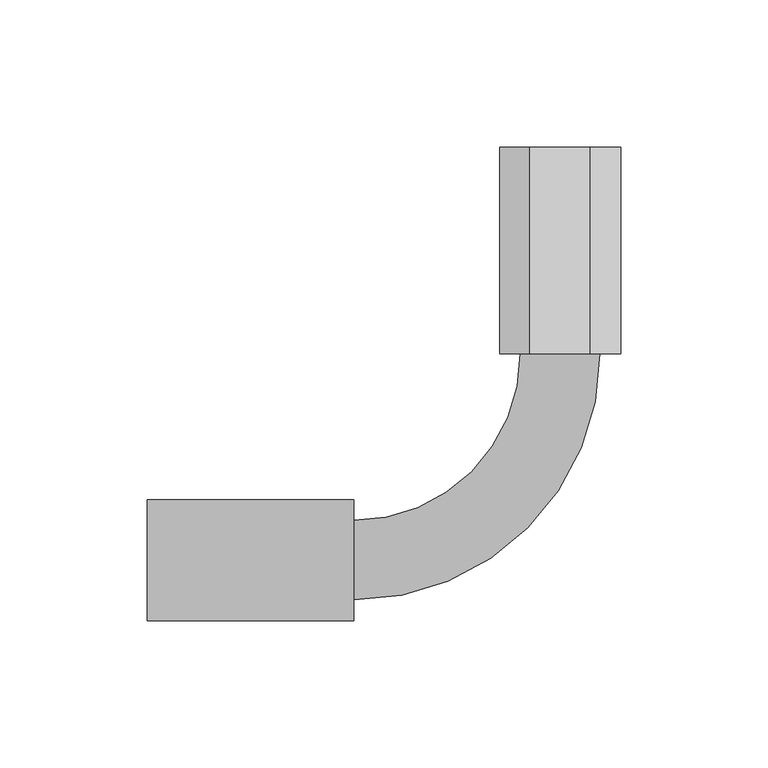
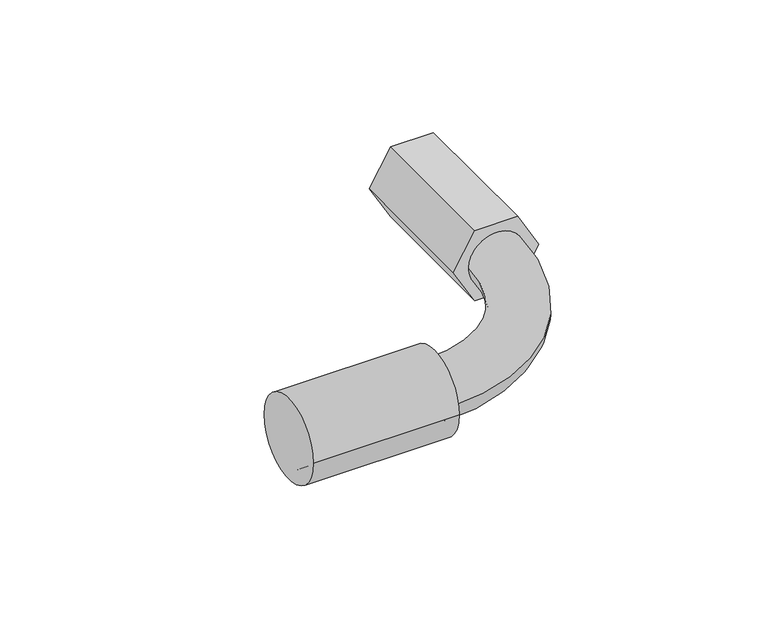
"""IFC4 building model written with IfcOpenShell, lengths in millimetres: cable carrier fitting geometry, Муфта_гибкая_труба-труба_IP44 : Муфта гибкая труба-труба D25мм."""

from ifc_helpers import new_model, si_unit, point, frame, origin, origin_2d, place, context, project, spatial, polyline, circle_curve, ellipse_curve, trimmed, segment, composite_curve, outline, extrude, source, transform, mapped, element, save
from ifc_brep_helpers import plane_surface, cylinder_surface, revolved_surface, advanced_brep


def cable_carrier_fitting_4913733f(model_context):
    return source(origin(), model_context, "Body", "SolidModel", [
        extrude(outline(composite_curve([segment(trimmed(circle_curve(origin_2d(), 20.5), [point((-20.5, 0.0))], [point((20.5, 0.0))], False, "CARTESIAN"), True, "CONTINUOUS"), segment(trimmed(circle_curve(origin_2d(), 20.5), [point((20.5, 0.0))], [point((-20.5, 0.0))], False, "CARTESIAN"), True, "CONTINUOUS")], self_intersect=False)), frame((-140.0, 0.0, 0.0), z_axis=(1.0, 0.0, 0.0), x_axis=(0.0, 1.0, 0.0)), (0.0, 0.0, 1.0), 70.0),
        extrude(outline(polyline([(-17.7535208, 10.25), (0.0, 20.5), (17.7535208, 10.25), (17.7535208, -10.25), (0.0, -20.5), (-17.7535208, -10.25), (-17.7535208, 10.25)])), frame((0.0, 70.0, 0.0), z_axis=(0.0, 1.0, 0.0), x_axis=(0.0, 0.0, 1.0)), (0.0, 0.0, 1.0), 70.0),
        advanced_brep(
        [(-140.0, -13.5, 0.0), (-140.0, 13.5, 0.0), (-70.0, -13.5, 0.0), (-70.0, 13.5, 0.0), (-13.5, 70.0, 0.0), (13.5, 70.0, 0.0), (13.5, 140.0, 0.0), (-13.5, 140.0, 0.0)],
        [
            (0, 1, circle_curve(frame((-140.0, 0.0, 0.0), z_axis=(-1.0, 0.0, 0.0), x_axis=(0.0, 1.0, 0.0)), 13.5)),
            (1, 0, circle_curve(frame((-140.0, 0.0, 0.0), z_axis=(-1.0, 0.0, 0.0), x_axis=(0.0, 1.0, 0.0)), 13.5)),
            (0, 2),
            (2, 3, circle_curve(frame((-70.0, 0.0, 0.0), z_axis=(-1.0, 0.0, 0.0), x_axis=(0.0, 1.0, 0.0)), 13.5)),
            (3, 1),
            (3, 2, circle_curve(frame((-70.0, 0.0, 0.0), z_axis=(-1.0, 0.0, 0.0), x_axis=(0.0, 1.0, 0.0)), 13.5)),
            (4, 3, circle_curve(frame((-70.0, 70.0, 0.0), z_axis=(0.0, 0.0, -1.0), x_axis=(0.0, -1.0, 0.0)), 56.5)),
            (2, 5, circle_curve(frame((-70.0, 70.0, 0.0), z_axis=(0.0, 0.0, 1.0), x_axis=(0.0, -1.0, 0.0)), 83.5)),
            (5, 4, circle_curve(frame((0.0, 70.0, 0.0), z_axis=(0.0, -1.0, 0.0), x_axis=(-1.0, 0.0, 0.0)), 13.5)),
            (4, 5, circle_curve(frame((0.0, 70.0, 0.0), z_axis=(0.0, -1.0, 0.0), x_axis=(-1.0, 0.0, 0.0)), 13.5)),
            (6, 7, circle_curve(frame((0.0, 140.0, 0.0), z_axis=(0.0, 1.0, 0.0), x_axis=(-1.0, 0.0, 0.0)), 13.5)),
            (7, 6, circle_curve(frame((0.0, 140.0, 0.0), z_axis=(0.0, 1.0, 0.0), x_axis=(-1.0, 0.0, 0.0)), 13.5)),
            (5, 6),
            (7, 4),
        ],
        [
            plane_surface(frame((-140.0, 0.0, 0.0), z_axis=(-1.0, 0.0, 0.0), x_axis=(0.0, 0.0, 1.0))),
            cylinder_surface(frame((-140.0, 0.0, 0.0), z_axis=(-1.0, 0.0, 0.0), x_axis=(0.0, 1.0, 0.0)), 13.5),
            revolved_surface(trimmed(ellipse_curve(frame((-70.0, 0.0, 0.0), z_axis=(-1.0, 0.0, 0.0), x_axis=(0.0, 1.0, 0.0)), 13.5, 13.5), [point((-70.0, -13.5, 0.0))], [point((-70.0, 13.5, 0.0))], True, "CARTESIAN"), (-70.0, 70.0, 0.0), (0.0, 0.0, 1.0)),
            revolved_surface(trimmed(ellipse_curve(frame((-70.0, 0.0, 0.0), z_axis=(-1.0, 0.0, 0.0), x_axis=(0.0, 1.0, 0.0)), 13.5, 13.5), [point((-70.0, 13.5, 0.0))], [point((-70.0, -13.5, 0.0))], True, "CARTESIAN"), (-70.0, 70.0, 0.0), (0.0, 0.0, 1.0)),
            plane_surface(frame((0.0, 140.0, 0.0), z_axis=(0.0, 1.0, 0.0), x_axis=(0.0, 0.0, 1.0))),
            cylinder_surface(frame((0.0, 70.0, 0.0), z_axis=(0.0, -1.0, 0.0), x_axis=(-1.0, 0.0, 0.0)), 13.5),
        ],
        [
            (0, [[1, 2]]),
            (1, [[-1, 3, 4, 5]]),
            (1, [[-2, -5, 6, -3]]),
            (2, [[7, -4, 8, 9]]),
            (3, [[-8, -6, -7, 10]]),
            (4, [[11, 12]]),
            (5, [[-9, 13, -12, 14]]),
            (5, [[-10, -14, -11, -13]]),
        ],
    ),
    ])


if __name__ == "__main__":
    model = new_model("IFC4")
    model_context = context("Model", 3, world=origin())
    ifc_project = project(units=[si_unit("LENGTHUNIT", "METRE", prefix="MILLI")], contexts=[model_context])
    site = spatial("IfcSite", under=ifc_project)
    building = spatial("IfcBuilding", under=site)
    placement = place(None, origin())
    cable_carrier_fitting_shape = cable_carrier_fitting_4913733f(model_context)
    element("IfcCableCarrierFitting", 1, ObjectType="Муфта_гибкая_труба-труба_IP44 : Муфта гибкая труба-труба D25мм", at=placement, inside=building, context=model_context, shape_type="MappedRepresentation", body=[
        mapped(cable_carrier_fitting_shape, transform((0.0, 0.0, 0.0), x_axis=(1.0, 0.0, 0.0), y_axis=(0.0, 1.0, 0.0), z_axis=(0.0, 0.0, 1.0))),
    ])
    save(model, "model.ifc")
